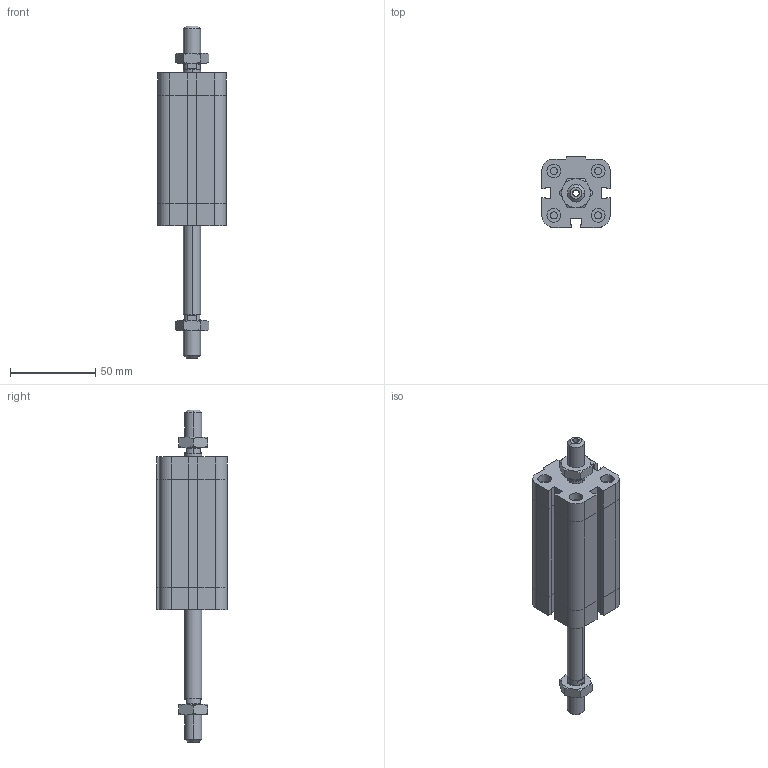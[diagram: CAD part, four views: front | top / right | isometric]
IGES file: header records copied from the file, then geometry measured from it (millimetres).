
Global section: file name: No Iges File Name specified; native system: Autodesk Inventor 2009; preprocessor: AutoDesk Inventor Iges Exporter R2009; author: maffial1; date: 20090420.142659; units: millimetre
Bounding box: 40 x 41.5 x 194.5 mm (x, y, z)
Volume: 136470.1 mm3; surface area: 35697.7 mm2
Topology: 4 solids, 4 shells, 262 faces, 580 edges, 346 vertices
Faces by surface type: plane 129, bspline 53, cone 38, cylinder 22, revolution 20
